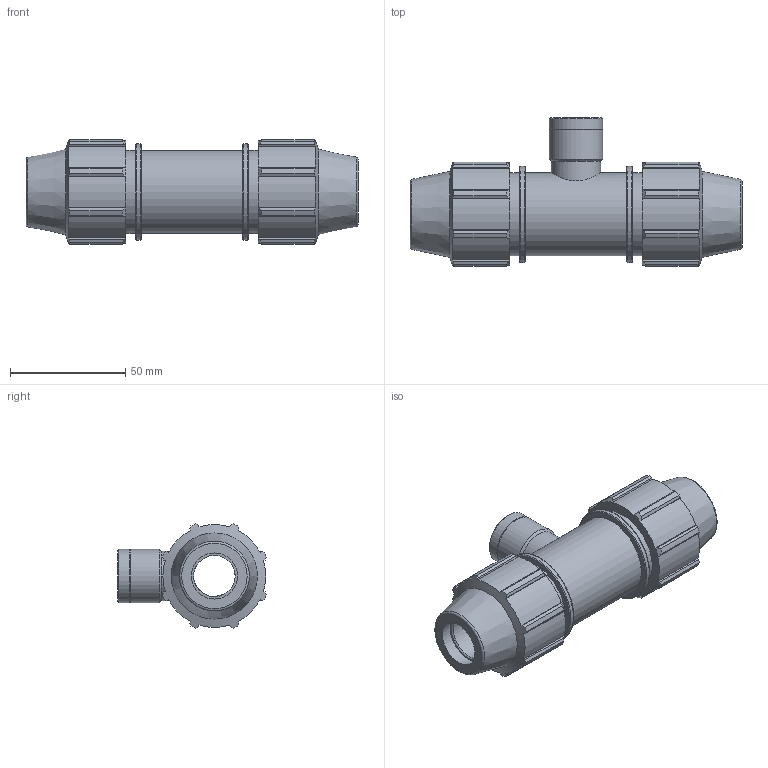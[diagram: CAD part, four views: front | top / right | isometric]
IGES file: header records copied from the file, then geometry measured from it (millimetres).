
Global section: file name: 071400020005_181400020005_0714060200050A.ipt; native system: Autodesk Inventor 2015; preprocessor: unknown; author: KIM; date: 20170606.172142; units: millimetre
Bounding box: 144 x 64.58 x 45.16 mm (x, y, z)
Volume: 131206.8 mm3; surface area: 35077.1 mm2
Topology: 1 solids, 1 shells, 157 faces, 443 edges, 299 vertices
Faces by surface type: plane 79, cylinder 40, cone 23, revolution 15
Full cylindrical faces by diameter (mm): 21.426 x1, 23.289 x2, 36 x3, 41.76 x2
